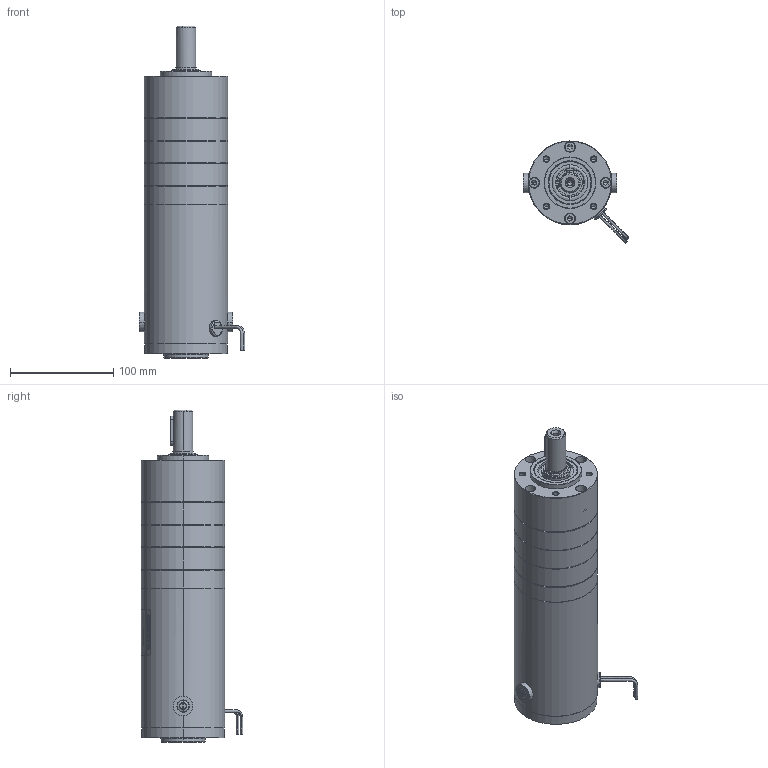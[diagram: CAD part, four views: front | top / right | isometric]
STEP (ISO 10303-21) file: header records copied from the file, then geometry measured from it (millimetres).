
FILE_DESCRIPTION (( 'STEP AP214' ), '1' );
FILE_NAME ('PM8014HV-PL8100i_3S.STEP', '2013-05-01T18:13:14', ( '' ), ( '' ), 'SwSTEP 2.0', 'SolidWorks 2013', '' );
FILE_SCHEMA (( 'AUTOMOTIVE_DESIGN' ));
Length unit declared in the file: inch
Products named in the file (1): PM8014HV-PL8100i_3S
Bounding box: 102.19 x 98.78 x 322.23 mm (x, y, z)
Surface area: 271885.3 mm2 (no closed solid volume)
Topology: 0 solids, 43 shells, 2357 faces, 6187 edges, 3951 vertices
Faces by surface type: cylinder 834, plane 781, bspline 322, torus 210, cone 173, sphere 37
Entity records: 124966 total; most frequent: CARTESIAN_POINT 37223, ORIENTED_EDGE 12210, DIRECTION 11379, EDGE_CURVE 6115, AXIS2_PLACEMENT_3D 4339, VERTEX_POINT 3934, LINE 2701, VECTOR 2701
